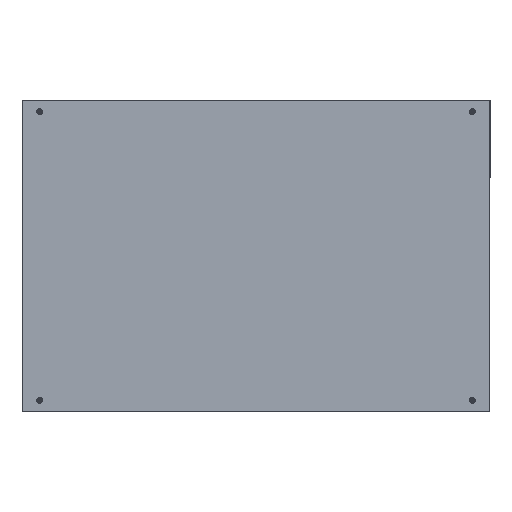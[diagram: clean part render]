
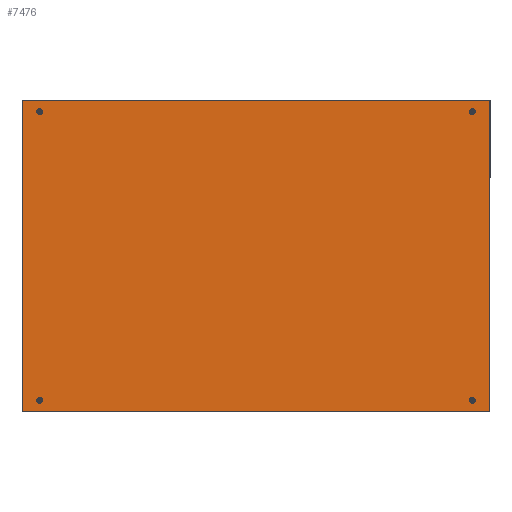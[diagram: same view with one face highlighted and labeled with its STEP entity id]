
A CAD part, left-side view. The second image highlights one B-rep face of the part: STEP entity #7476.
In plain terms, the highlighted planar face has unit normal (-1, 0, 0).
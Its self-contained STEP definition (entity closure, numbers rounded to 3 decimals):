
#631=CIRCLE('',#9600,5.125);
#633=CIRCLE('',#9603,5.125);
#635=CIRCLE('',#9606,5.125);
#636=CIRCLE('',#9635,5.125);
#1908=ORIENTED_EDGE('',*,*,#3348,.T.);
#1909=ORIENTED_EDGE('',*,*,#3349,.T.);
#1910=ORIENTED_EDGE('',*,*,#3350,.T.);
#1911=ORIENTED_EDGE('',*,*,#3351,.T.);
#1912=ORIENTED_EDGE('',*,*,#3352,.F.);
#1913=ORIENTED_EDGE('',*,*,#3253,.F.);
#1914=ORIENTED_EDGE('',*,*,#3251,.F.);
#1915=ORIENTED_EDGE('',*,*,#3249,.F.);
#3249=EDGE_CURVE('',#4075,#4075,#631,.T.);
#3251=EDGE_CURVE('',#4077,#4077,#633,.T.);
#3253=EDGE_CURVE('',#4079,#4079,#635,.T.);
#3348=EDGE_CURVE('',#4150,#4151,#4863,.T.);
#3349=EDGE_CURVE('',#4151,#4152,#4864,.T.);
#3350=EDGE_CURVE('',#4152,#4153,#4865,.T.);
#3351=EDGE_CURVE('',#4153,#4150,#4866,.T.);
#3352=EDGE_CURVE('',#4154,#4154,#636,.T.);
#4075=VERTEX_POINT('',#13321);
#4077=VERTEX_POINT('',#13326);
#4079=VERTEX_POINT('',#13331);
#4150=VERTEX_POINT('',#13525);
#4151=VERTEX_POINT('',#13526);
#4152=VERTEX_POINT('',#13528);
#4153=VERTEX_POINT('',#13530);
#4154=VERTEX_POINT('',#13533);
#4863=LINE('',#13524,#5591);
#4864=LINE('',#13527,#5592);
#4865=LINE('',#13529,#5593);
#4866=LINE('',#13531,#5594);
#5591=VECTOR('',#11257,1000.);
#5592=VECTOR('',#11258,1000.);
#5593=VECTOR('',#11259,1000.);
#5594=VECTOR('',#11260,1000.);
#6159=EDGE_LOOP('',(#1908,#1909,#1910,#1911));
#6160=EDGE_LOOP('',(#1912));
#6161=EDGE_LOOP('',(#1913));
#6162=EDGE_LOOP('',(#1914));
#6163=EDGE_LOOP('',(#1915));
#6697=FACE_BOUND('',#6159,.T.);
#6698=FACE_BOUND('',#6160,.T.);
#6699=FACE_BOUND('',#6161,.T.);
#6700=FACE_BOUND('',#6162,.T.);
#6701=FACE_BOUND('',#6163,.T.);
#7105=PLANE('',#9634);
#7476=ADVANCED_FACE('',(#6697,#6698,#6699,#6700,#6701),#7105,.T.);
#9600=AXIS2_PLACEMENT_3D('',#13320,#11093,#11094);
#9603=AXIS2_PLACEMENT_3D('',#13325,#11099,#11100);
#9606=AXIS2_PLACEMENT_3D('',#13330,#11105,#11106);
#9634=AXIS2_PLACEMENT_3D('',#13523,#11255,#11256);
#9635=AXIS2_PLACEMENT_3D('',#13532,#11261,#11262);
#11093=DIRECTION('',(-1.,0.,0.));
#11094=DIRECTION('',(0.,-1.,0.));
#11099=DIRECTION('',(-1.,0.,0.));
#11100=DIRECTION('',(0.,-1.,0.));
#11105=DIRECTION('',(-1.,0.,0.));
#11106=DIRECTION('',(0.,-1.,0.));
#11255=DIRECTION('',(-1.,0.,0.));
#11256=DIRECTION('',(0.,-1.,0.));
#11257=DIRECTION('',(0.,-1.,0.));
#11258=DIRECTION('',(0.,0.,1.));
#11259=DIRECTION('',(0.,1.,0.));
#11260=DIRECTION('',(0.,0.,-1.));
#11261=DIRECTION('',(-1.,0.,0.));
#11262=DIRECTION('',(0.,-1.,0.));
#13320=CARTESIAN_POINT('',(-1.5,555.,-370.));
#13321=CARTESIAN_POINT('',(-1.5,549.875,-370.));
#13325=CARTESIAN_POINT('',(-1.5,555.,370.));
#13326=CARTESIAN_POINT('',(-1.5,549.875,370.));
#13330=CARTESIAN_POINT('',(-1.5,-555.,-370.));
#13331=CARTESIAN_POINT('',(-1.5,-560.125,-370.));
#13523=CARTESIAN_POINT('',(-1.5,0.,0.));
#13524=CARTESIAN_POINT('',(-1.5,0.,-400.));
#13525=CARTESIAN_POINT('',(-1.5,600.,-400.));
#13526=CARTESIAN_POINT('',(-1.5,-600.,-400.));
#13527=CARTESIAN_POINT('',(-1.5,-600.,0.));
#13528=CARTESIAN_POINT('',(-1.5,-600.,400.));
#13529=CARTESIAN_POINT('',(-1.5,0.,400.));
#13530=CARTESIAN_POINT('',(-1.5,600.,400.));
#13531=CARTESIAN_POINT('',(-1.5,600.,0.));
#13532=CARTESIAN_POINT('',(-1.5,-555.,370.));
#13533=CARTESIAN_POINT('',(-1.5,-560.125,370.));
